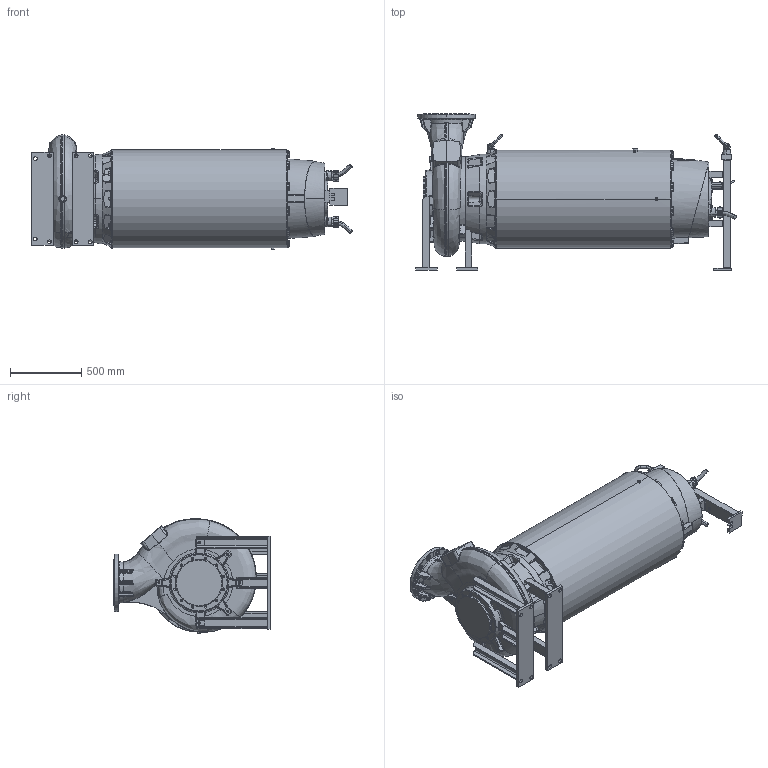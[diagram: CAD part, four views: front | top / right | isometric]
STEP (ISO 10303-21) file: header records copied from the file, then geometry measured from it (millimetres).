
FILE_DESCRIPTION (( 'STEP AP214' ), '1' );
FILE_NAME ('PE6_XFP250M-CH2_DRY HA_C_NG2.STEP', '2017-02-17T07:54:52', ( '' ), ( '' ), 'SwSTEP 2.0', 'SolidWorks 2017', '' );
FILE_SCHEMA (( 'AUTOMOTIVE_DESIGN' ));
Length unit declared in the file: millimetre
Products named in the file (1): PE6_XFP250M-CH2_DRY HA_C_NG2
Bounding box: 2253.08 x 1100 x 807.66 mm (x, y, z)
Volume: 715391928.6 mm3; surface area: 7411185.5 mm2
Topology: 6 solids, 18 shells, 3445 faces, 8422 edges, 4890 vertices
Faces by surface type: plane 941, bspline 867, cylinder 748, cone 365, torus 360, sphere 164
Entity records: 203498 total; most frequent: CARTESIAN_POINT 92208, ORIENTED_EDGE 16410, DIRECTION 13939, EDGE_CURVE 8205, AXIS2_PLACEMENT_3D 5585, VERTEX_POINT 4884, EDGE_LOOP 3651, UNCERTAINTY_MEASURE_WITH_UNIT 3453
